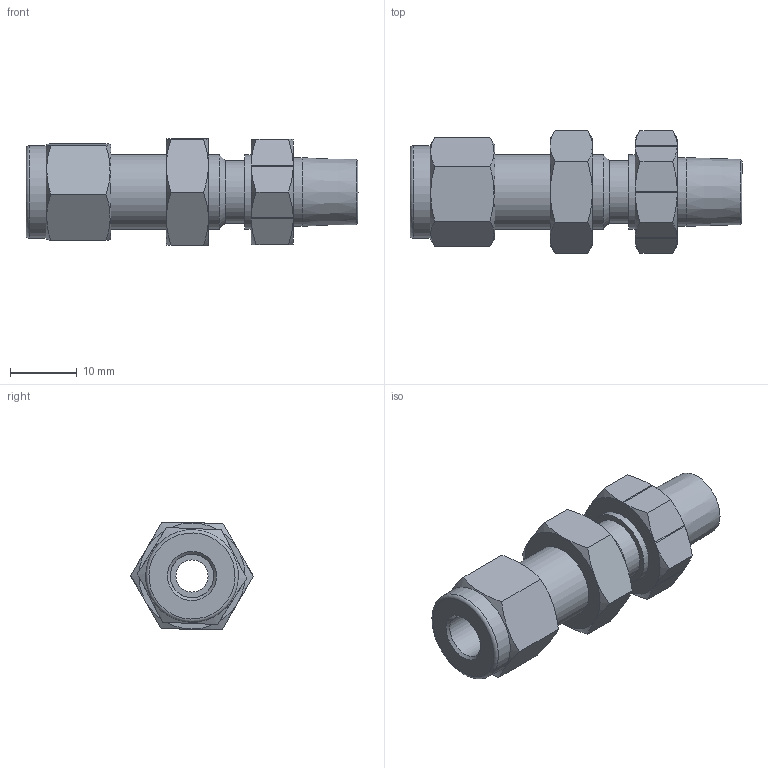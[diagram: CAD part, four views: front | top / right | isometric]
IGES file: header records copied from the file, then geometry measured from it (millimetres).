
Global section: file name: No Iges File Name specified; native system: Autodesk Inventor 2012; preprocessor: AutoDesk Inventor Iges Exporter R2012; author: 硅己绕,, ; organization: 11; date: 20150603.092453; units: millimetre
Bounding box: 49.74 x 18.36 x 15.95 mm (x, y, z)
Volume: 5627.1 mm3; surface area: 4605.8 mm2
Topology: 3 solids, 3 shells, 87 faces, 177 edges, 102 vertices
Faces by surface type: plane 36, cone 30, cylinder 12, revolution 8, torus 1
Full cylindrical faces by diameter (mm): 9.301 x1, 9.399 x1, 10.28 x1, 11.099 x1, 11.111 x1, 13.9 x1
